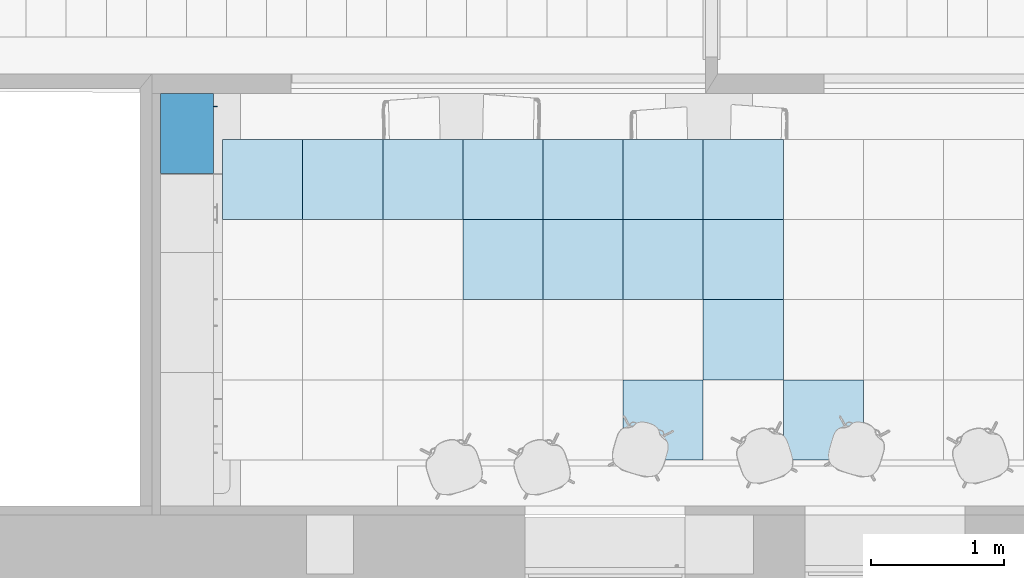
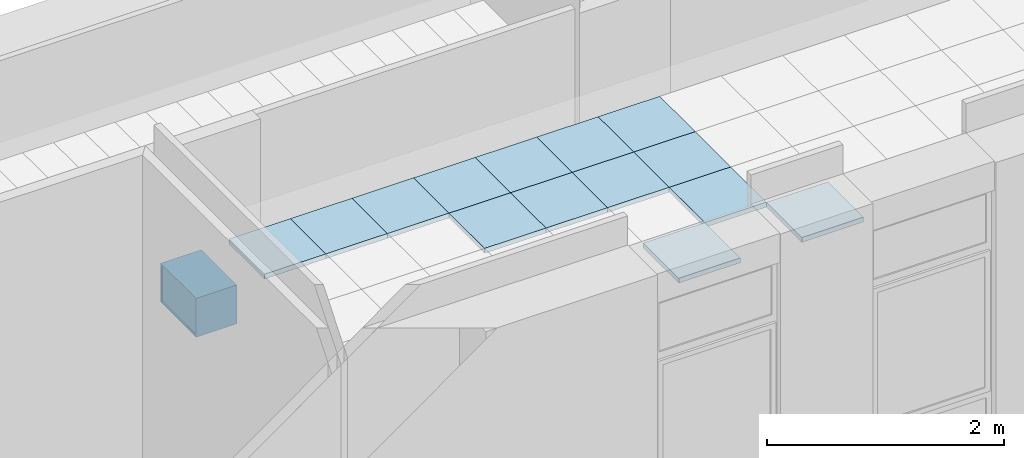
# One storey, part 17 of 60: 15 slabs.
"""IFC2X3 building model written with IfcOpenShell, lengths in millimetres."""

from ifc_helpers import new_model, entity, si_unit, converted_unit, derived_unit, money_unit, direction, frame, origin_with_axes, place, context, subcontext, project, spatial, polyline, outline, extrude, faceted_brep, source, transform, mapped, material, layer, layer_set, layer_usage, type_object, element, save


model = new_model("IFC2X3")

# Units and contexts
model_context = context("Model", 3, precision=0.01, world=origin_with_axes(), true_north=direction((0.0, 1.0)))
body_context = subcontext(model_context, "Body", "Model", "MODEL_VIEW")
ifc_project = project(units=[si_unit("LENGTHUNIT", "METRE", prefix="MILLI"), si_unit("AREAUNIT", "SQUARE_METRE"), si_unit("VOLUMEUNIT", "CUBIC_METRE"), converted_unit("PLANEANGLEUNIT", "DEGREE", entity("IfcPlaneAngleMeasure", 0.0174532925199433), si_unit("PLANEANGLEUNIT", "RADIAN"), dimensions=[0, 0, 0, 0, 0, 0, 0]), money_unit("USD"), converted_unit("TIMEUNIT", "Year", entity("IfcTimeMeasure", 31557600.0), si_unit("TIMEUNIT", "SECOND"), dimensions=[0, 0, 1, 0, 0, 0, 0]), si_unit("MASSUNIT", "GRAM", prefix="KILO"), si_unit("THERMODYNAMICTEMPERATUREUNIT", "DEGREE_CELSIUS"), si_unit("LUMINOUSINTENSITYUNIT", "LUMEN"), si_unit("ENERGYUNIT", "JOULE", prefix="MEGA"), derived_unit("THERMALCONDUCTANCEUNIT", [(si_unit("POWERUNIT", "WATT"), 1), (si_unit("LENGTHUNIT", "METRE"), -1), (si_unit("THERMODYNAMICTEMPERATUREUNIT", "KELVIN"), -1)]), derived_unit("SPECIFICHEATCAPACITYUNIT", [(si_unit("ENERGYUNIT", "JOULE"), 1), (si_unit("MASSUNIT", "GRAM", prefix="KILO"), -1), (si_unit("THERMODYNAMICTEMPERATUREUNIT", "KELVIN"), -1)]), derived_unit("MASSDENSITYUNIT", [(si_unit("MASSUNIT", "GRAM", prefix="KILO"), 1), (si_unit("VOLUMEUNIT", "CUBIC_METRE"), -1)])], contexts=[model_context])

# Site, building, storey
site_placement = place(None, origin_with_axes())
site = spatial("IfcSite", under=ifc_project, at=site_placement, Name="Sitio", CompositionType="ELEMENT")
building_placement = place(site_placement, origin_with_axes())
building = spatial("IfcBuilding", under=site, at=building_placement, Name="Construcción", CompositionType="ELEMENT")
storey_placement = place(building_placement, frame((0.0, 0.0, 3650.0), z_axis=(0.0, 0.0, 1.0), x_axis=(1.0, 0.0, 0.0)))
storey = spatial("IfcBuildingStorey", under=building, at=storey_placement, Name="PLANTA 2ª", CompositionType="ELEMENT", Elevation=3650.0)

# Slabs
slab_type_1 = type_object("IfcSlabType", Name="Armario Mural 27", PredefinedType="FLOOR")
shared_shape = source(origin_with_axes(), body_context, "Body", "Brep", [
    faceted_brep([(501.8682408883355, -397.999999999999, 1752.799038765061), (502.7101007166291, -397.999999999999, 1752.573463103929), (503.5000000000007, -397.999999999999, 1752.205127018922), (504.2139380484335, -397.999999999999, 1751.705222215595), (504.8302222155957, -397.999999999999, 1751.088938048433), (505.330127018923, -397.999999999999, 1750.375), (505.6984631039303, -397.999999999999, 1749.585100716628), (505.9240387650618, -397.999999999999, 1748.743240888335), (506.0000000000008, -397.999999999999, 1747.875), (505.9240387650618, -397.999999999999, 1747.006759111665), (505.6984631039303, -397.999999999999, 1746.164899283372), (505.330127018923, -397.999999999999, 1745.375), (504.8302222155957, -397.999999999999, 1744.661061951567), (504.2139380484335, -397.999999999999, 1744.044777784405), (503.5000000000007, -397.999999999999, 1743.544872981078), (502.7101007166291, -397.999999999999, 1743.17653689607), (501.8682408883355, -397.999999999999, 1742.950961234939), (501.0000000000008, -397.999999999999, 1742.875), (500.1317591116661, -397.999999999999, 1742.950961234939), (499.2898992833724, -397.999999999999, 1743.17653689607), (498.5000000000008, -397.999999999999, 1743.544872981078), (497.7860619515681, -397.999999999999, 1744.044777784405), (497.1697777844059, -397.999999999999, 1744.661061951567), (496.6698729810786, -397.999999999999, 1745.375), (496.3015368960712, -397.999999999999, 1746.164899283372), (496.0759612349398, -397.999999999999, 1747.006759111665), (496.0000000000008, -397.999999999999, 1747.875), (496.0759612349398, -397.999999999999, 1748.743240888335), (496.3015368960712, -397.999999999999, 1749.585100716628), (496.6698729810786, -397.999999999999, 1750.375), (497.1697777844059, -397.999999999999, 1751.088938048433), (497.7860619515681, -397.999999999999, 1751.705222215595), (498.5000000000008, -397.999999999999, 1752.205127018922), (499.2898992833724, -397.999999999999, 1752.573463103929), (500.1317591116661, -397.999999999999, 1752.799038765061), (501.0000000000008, -397.999999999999, 1752.875), (501.8682408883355, -422.999999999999, 1752.799038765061), (502.7101007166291, -422.999999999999, 1752.573463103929), (503.5000000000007, -422.999999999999, 1752.205127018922), (504.2139380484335, -422.999999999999, 1751.705222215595), (504.8302222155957, -422.999999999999, 1751.088938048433), (505.330127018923, -422.999999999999, 1750.375), (505.6984631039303, -422.999999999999, 1749.585100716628), (505.9240387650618, -422.999999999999, 1748.743240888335), (506.0000000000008, -422.999999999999, 1747.875), (505.9240387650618, -422.999999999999, 1747.006759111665), (505.6984631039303, -422.999999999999, 1746.164899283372), (505.330127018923, -422.999999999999, 1745.375), (504.8302222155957, -422.999999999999, 1744.661061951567), (504.2139380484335, -422.999999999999, 1744.044777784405), (503.5000000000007, -422.999999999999, 1743.544872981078), (502.7101007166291, -422.999999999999, 1743.17653689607), (501.8682408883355, -422.999999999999, 1742.950961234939), (501.0000000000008, -422.999999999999, 1742.875), (500.1317591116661, -422.999999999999, 1742.950961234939), (499.2898992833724, -422.999999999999, 1743.17653689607), (498.5000000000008, -422.999999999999, 1743.544872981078), (497.7860619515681, -422.999999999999, 1744.044777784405), (497.1697777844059, -422.999999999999, 1744.661061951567), (496.6698729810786, -422.999999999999, 1745.375), (496.3015368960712, -422.999999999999, 1746.164899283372), (496.0759612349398, -422.999999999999, 1747.006759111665), (496.0000000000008, -422.999999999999, 1747.875), (496.0759612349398, -422.999999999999, 1748.743240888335), (496.3015368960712, -422.999999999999, 1749.585100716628), (496.6698729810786, -422.999999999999, 1750.375), (497.1697777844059, -422.999999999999, 1751.088938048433), (497.7860619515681, -422.999999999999, 1751.705222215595), (498.5000000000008, -422.999999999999, 1752.205127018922), (499.2898992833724, -422.999999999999, 1752.573463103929), (500.1317591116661, -422.999999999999, 1752.799038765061), (501.0000000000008, -422.999999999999, 1752.875)], [[[0, 1, 2, 3, 4, 5, 6, 7, 8, 9, 10, 11, 12, 13, 14, 15, 16, 17, 18, 19, 20, 21, 22, 23, 24, 25, 26, 27, 28, 29, 30, 31, 32, 33, 34, 35]], [[1, 0, 36, 37]], [[2, 1, 37, 38]], [[3, 2, 38, 39]], [[4, 3, 39, 40]], [[5, 4, 40, 41]], [[6, 5, 41, 42]], [[7, 6, 42, 43]], [[8, 7, 43, 44]], [[9, 8, 44, 45]], [[10, 9, 45, 46]], [[11, 10, 46, 47]], [[12, 11, 47, 48]], [[13, 12, 48, 49]], [[14, 13, 49, 50]], [[15, 14, 50, 51]], [[16, 15, 51, 52]], [[17, 16, 52, 53]], [[18, 17, 53, 54]], [[19, 18, 54, 55]], [[20, 19, 55, 56]], [[21, 20, 56, 57]], [[22, 21, 57, 58]], [[23, 22, 58, 59]], [[24, 23, 59, 60]], [[25, 24, 60, 61]], [[26, 25, 61, 62]], [[27, 26, 62, 63]], [[28, 27, 63, 64]], [[29, 28, 64, 65]], [[30, 29, 65, 66]], [[31, 30, 66, 67]], [[32, 31, 67, 68]], [[33, 32, 68, 69]], [[34, 33, 69, 70]], [[35, 34, 70, 71]], [[0, 35, 71, 36]], [[36, 71, 70, 69, 68, 67, 66, 65, 64, 63, 62, 61, 60, 59, 58, 57, 56, 55, 54, 53, 52, 51, 50, 49, 48, 47, 46, 45, 44, 43, 42, 41, 40, 39, 38, 37]]]),
    faceted_brep([(501.8682408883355, -397.999999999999, 1649.200961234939), (501.0000000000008, -397.999999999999, 1649.125), (500.1317591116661, -397.999999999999, 1649.200961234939), (499.2898992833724, -397.999999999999, 1649.426536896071), (498.5000000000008, -397.999999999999, 1649.794872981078), (497.7860619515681, -397.999999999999, 1650.294777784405), (497.1697777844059, -397.999999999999, 1650.911061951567), (496.6698729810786, -397.999999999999, 1651.625), (496.3015368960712, -397.999999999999, 1652.414899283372), (496.0759612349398, -397.999999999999, 1653.256759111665), (496.0000000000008, -397.999999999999, 1654.125), (496.0759612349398, -397.999999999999, 1654.993240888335), (496.3015368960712, -397.999999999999, 1655.835100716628), (496.6698729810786, -397.999999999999, 1656.625), (497.1697777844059, -397.999999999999, 1657.338938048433), (497.7860619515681, -397.999999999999, 1657.955222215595), (498.5000000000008, -397.999999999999, 1658.455127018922), (499.2898992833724, -397.999999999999, 1658.823463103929), (500.1317591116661, -397.999999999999, 1659.049038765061), (501.0000000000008, -397.999999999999, 1659.125), (501.8682408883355, -397.999999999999, 1659.049038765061), (502.7101007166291, -397.999999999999, 1658.823463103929), (503.5000000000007, -397.999999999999, 1658.455127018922), (504.2139380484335, -397.999999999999, 1657.955222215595), (504.8302222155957, -397.999999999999, 1657.338938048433), (505.330127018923, -397.999999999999, 1656.625), (505.6984631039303, -397.999999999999, 1655.835100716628), (505.9240387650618, -397.999999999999, 1654.993240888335), (506.0000000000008, -397.999999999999, 1654.125), (505.9240387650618, -397.999999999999, 1653.256759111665), (505.6984631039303, -397.999999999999, 1652.414899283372), (505.330127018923, -397.999999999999, 1651.625), (504.8302222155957, -397.999999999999, 1650.911061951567), (504.2139380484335, -397.999999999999, 1650.294777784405), (503.5000000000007, -397.999999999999, 1649.794872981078), (502.7101007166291, -397.999999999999, 1649.426536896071), (501.8682408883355, -422.999999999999, 1649.200961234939), (501.0000000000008, -422.999999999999, 1649.125), (500.1317591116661, -422.999999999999, 1649.200961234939), (499.2898992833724, -422.999999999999, 1649.426536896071), (498.5000000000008, -422.999999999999, 1649.794872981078), (497.7860619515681, -422.999999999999, 1650.294777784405), (497.1697777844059, -422.999999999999, 1650.911061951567), (496.6698729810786, -422.999999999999, 1651.625), (496.3015368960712, -422.999999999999, 1652.414899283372), (496.0759612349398, -422.999999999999, 1653.256759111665), (496.0000000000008, -422.999999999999, 1654.125), (496.0759612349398, -422.999999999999, 1654.993240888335), (496.3015368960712, -422.999999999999, 1655.835100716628), (496.6698729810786, -422.999999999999, 1656.625), (497.1697777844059, -422.999999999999, 1657.338938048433), (497.7860619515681, -422.999999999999, 1657.955222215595), (498.5000000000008, -422.999999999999, 1658.455127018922), (499.2898992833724, -422.999999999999, 1658.823463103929), (500.1317591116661, -422.999999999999, 1659.049038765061), (501.0000000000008, -422.999999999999, 1659.125), (501.8682408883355, -422.999999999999, 1659.049038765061), (502.7101007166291, -422.999999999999, 1658.823463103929), (503.5000000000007, -422.999999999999, 1658.455127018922), (504.2139380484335, -422.999999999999, 1657.955222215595), (504.8302222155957, -422.999999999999, 1657.338938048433), (505.330127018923, -422.999999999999, 1656.625), (505.6984631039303, -422.999999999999, 1655.835100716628), (505.9240387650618, -422.999999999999, 1654.993240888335), (506.0000000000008, -422.999999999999, 1654.125), (505.9240387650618, -422.999999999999, 1653.256759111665), (505.6984631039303, -422.999999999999, 1652.414899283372), (505.330127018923, -422.999999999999, 1651.625), (504.8302222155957, -422.999999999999, 1650.911061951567), (504.2139380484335, -422.999999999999, 1650.294777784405), (503.5000000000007, -422.999999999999, 1649.794872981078), (502.7101007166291, -422.999999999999, 1649.426536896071)], [[[0, 1, 2, 3, 4, 5, 6, 7, 8, 9, 10, 11, 12, 13, 14, 15, 16, 17, 18, 19, 20, 21, 22, 23, 24, 25, 26, 27, 28, 29, 30, 31, 32, 33, 34, 35]], [[0, 36, 37, 1]], [[1, 37, 38, 2]], [[2, 38, 39, 3]], [[3, 39, 40, 4]], [[4, 40, 41, 5]], [[5, 41, 42, 6]], [[6, 42, 43, 7]], [[7, 43, 44, 8]], [[8, 44, 45, 9]], [[9, 45, 46, 10]], [[10, 46, 47, 11]], [[11, 47, 48, 12]], [[12, 48, 49, 13]], [[13, 49, 50, 14]], [[14, 50, 51, 15]], [[15, 51, 52, 16]], [[16, 52, 53, 17]], [[17, 53, 54, 18]], [[18, 54, 55, 19]], [[19, 55, 56, 20]], [[20, 56, 57, 21]], [[21, 57, 58, 22]], [[22, 58, 59, 23]], [[23, 59, 60, 24]], [[24, 60, 61, 25]], [[25, 61, 62, 26]], [[26, 62, 63, 27]], [[27, 63, 64, 28]], [[28, 64, 65, 29]], [[29, 65, 66, 30]], [[30, 66, 67, 31]], [[31, 67, 68, 32]], [[32, 68, 69, 33]], [[33, 69, 70, 34]], [[34, 70, 71, 35]], [[35, 71, 36, 0]], [[36, 71, 70, 69, 68, 67, 66, 65, 64, 63, 62, 61, 60, 59, 58, 57, 56, 55, 54, 53, 52, 51, 50, 49, 48, 47, 46, 45, 44, 43, 42, 41, 40, 39, 38, 37]]]),
    faceted_brep([(501.8682408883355, -418.0759612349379, 1626.0), (502.7101007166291, -418.3015368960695, 1626.0), (503.5000000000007, -418.6698729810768, 1626.0), (504.2139380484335, -419.1697777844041, 1626.0), (504.8302222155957, -419.7860619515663, 1626.0), (505.330127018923, -420.499999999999, 1626.0), (505.6984631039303, -421.2898992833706, 1626.0), (505.9240387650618, -422.1317591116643, 1626.0), (506.0000000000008, -422.999999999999, 1626.0), (505.9240387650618, -423.8682408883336, 1626.0), (505.6984631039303, -424.7101007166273, 1626.0), (505.330127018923, -425.499999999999, 1626.0), (504.8302222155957, -426.2139380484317, 1626.0), (504.2139380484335, -426.8302222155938, 1626.0), (503.5000000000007, -427.3301270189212, 1626.0), (502.7101007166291, -427.6984631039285, 1626.0), (501.8682408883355, -427.92403876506, 1626.0), (501.0000000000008, -427.999999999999, 1626.0), (500.1317591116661, -427.92403876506, 1626.0), (499.2898992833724, -427.6984631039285, 1626.0), (498.5000000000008, -427.3301270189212, 1626.0), (497.7860619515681, -426.8302222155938, 1626.0), (497.1697777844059, -426.2139380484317, 1626.0), (496.6698729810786, -425.499999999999, 1626.0), (496.3015368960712, -424.7101007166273, 1626.0), (496.0759612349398, -423.8682408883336, 1626.0), (496.0000000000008, -422.999999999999, 1626.0), (496.0759612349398, -422.1317591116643, 1626.0), (496.3015368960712, -421.2898992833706, 1626.0), (496.6698729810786, -420.499999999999, 1626.0), (497.1697777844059, -419.7860619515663, 1626.0), (497.7860619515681, -419.1697777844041, 1626.0), (498.5000000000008, -418.6698729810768, 1626.0), (499.2898992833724, -418.3015368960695, 1626.0), (500.1317591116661, -418.0759612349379, 1626.0), (501.0000000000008, -417.999999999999, 1626.0), (501.8682408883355, -418.0759612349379, 1776.0), (502.7101007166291, -418.3015368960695, 1776.0), (503.5000000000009, -418.6698729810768, 1776.0), (504.2139380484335, -419.1697777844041, 1776.0), (504.8302222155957, -419.7860619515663, 1776.0), (505.330127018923, -420.499999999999, 1776.0), (505.6984631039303, -421.2898992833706, 1776.0), (505.9240387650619, -422.1317591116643, 1776.0), (506.0000000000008, -422.999999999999, 1776.0), (505.9240387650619, -423.8682408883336, 1776.0), (505.6984631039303, -424.7101007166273, 1776.0), (505.330127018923, -425.499999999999, 1776.0), (504.8302222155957, -426.2139380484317, 1776.0), (504.2139380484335, -426.8302222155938, 1776.0), (503.5000000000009, -427.3301270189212, 1776.0), (502.7101007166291, -427.6984631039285, 1776.0), (501.8682408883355, -427.92403876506, 1776.0), (501.0000000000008, -427.999999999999, 1776.0), (500.1317591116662, -427.92403876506, 1776.0), (499.2898992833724, -427.6984631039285, 1776.0), (498.5000000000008, -427.3301270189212, 1776.0), (497.7860619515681, -426.8302222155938, 1776.0), (497.1697777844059, -426.2139380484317, 1776.0), (496.6698729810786, -425.499999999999, 1776.0), (496.3015368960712, -424.7101007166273, 1776.0), (496.0759612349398, -423.8682408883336, 1776.0), (496.0000000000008, -422.999999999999, 1776.0), (496.0759612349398, -422.1317591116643, 1776.0), (496.3015368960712, -421.2898992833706, 1776.0), (496.6698729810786, -420.499999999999, 1776.0), (497.1697777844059, -419.7860619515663, 1776.0), (497.7860619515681, -419.1697777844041, 1776.0), (498.5000000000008, -418.6698729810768, 1776.0), (499.2898992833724, -418.3015368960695, 1776.0), (500.1317591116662, -418.0759612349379, 1776.0), (501.0000000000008, -417.999999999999, 1776.0)], [[[0, 1, 2, 3, 4, 5, 6, 7, 8, 9, 10, 11, 12, 13, 14, 15, 16, 17, 18, 19, 20, 21, 22, 23, 24, 25, 26, 27, 28, 29, 30, 31, 32, 33, 34, 35]], [[1, 0, 36, 37]], [[2, 1, 37, 38]], [[3, 2, 38, 39]], [[4, 3, 39, 40]], [[5, 4, 40, 41]], [[6, 5, 41, 42]], [[7, 6, 42, 43]], [[8, 7, 43, 44]], [[9, 8, 44, 45]], [[10, 9, 45, 46]], [[11, 10, 46, 47]], [[12, 11, 47, 48]], [[13, 12, 48, 49]], [[14, 13, 49, 50]], [[15, 14, 50, 51]], [[16, 15, 51, 52]], [[17, 16, 52, 53]], [[18, 17, 53, 54]], [[19, 18, 54, 55]], [[20, 19, 55, 56]], [[21, 20, 56, 57]], [[22, 21, 57, 58]], [[23, 22, 58, 59]], [[24, 23, 59, 60]], [[25, 24, 60, 61]], [[26, 25, 61, 62]], [[27, 26, 62, 63]], [[28, 27, 63, 64]], [[29, 28, 64, 65]], [[30, 29, 65, 66]], [[31, 30, 66, 67]], [[32, 31, 67, 68]], [[33, 32, 68, 69]], [[34, 33, 69, 70]], [[35, 34, 70, 71]], [[0, 35, 71, 36]], [[36, 71, 70, 69, 68, 67, 66, 65, 64, 63, 62, 61, 60, 59, 58, 57, 56, 55, 54, 53, 52, 51, 50, 49, 48, 47, 46, 45, 44, 43, 42, 41, 40, 39, 38, 37]]]),
    faceted_brep([(1.0, -379.999999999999, 1501.0), (599.0000000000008, -379.999999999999, 1501.0), (599.0000000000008, -397.999999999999, 1501.0), (1.0, -397.999999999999, 1501.0), (1.0, -379.999999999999, 1899.0), (599.0000000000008, -379.999999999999, 1899.0), (599.0000000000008, -397.999999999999, 1899.0), (1.0, -397.999999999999, 1899.0)], [[[0, 1, 2, 3]], [[0, 4, 5, 1]], [[1, 5, 6, 2]], [[3, 2, 6, 7]], [[4, 0, 3, 7]], [[5, 4, 7, 6]]]),
    faceted_brep([(18.0, -379.999999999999, 1500.0), (582.0000000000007, -379.999999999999, 1500.0), (582.0000000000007, -379.999999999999, 1518.0), (18.0, -379.999999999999, 1518.0), (18.0, 0.0, 1500.0), (582.0000000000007, 0.0, 1500.0), (582.0000000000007, 0.0, 1518.0), (18.0, 0.0, 1518.0)], [[[0, 1, 2, 3]], [[0, 4, 5, 1]], [[1, 5, 6, 2]], [[3, 2, 6, 7]], [[4, 0, 3, 7]], [[5, 4, 7, 6]]]),
    faceted_brep([(18.0, -379.999999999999, 1882.0), (582.0000000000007, -379.999999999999, 1882.0), (582.0000000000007, -379.999999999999, 1900.0), (18.0, -379.999999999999, 1900.0), (18.0, 0.0, 1882.0), (582.0000000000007, 0.0, 1882.0), (582.0000000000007, 0.0, 1900.0), (18.0, 0.0, 1900.0)], [[[0, 1, 2, 3]], [[0, 4, 5, 1]], [[1, 5, 6, 2]], [[3, 2, 6, 7]], [[4, 0, 3, 7]], [[5, 4, 7, 6]]]),
    faceted_brep([(0.0, 0.0, 1500.0), (0.0, -379.999999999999, 1500.0), (0.0, -379.999999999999, 1900.0), (0.0, 0.0, 1900.0), (18.0, 0.0, 1500.0), (18.0, -379.999999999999, 1500.0), (18.0, -379.999999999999, 1900.0), (18.0, 0.0, 1900.0)], [[[0, 1, 2, 3]], [[0, 4, 5, 1]], [[1, 5, 6, 2]], [[3, 2, 6, 7]], [[4, 0, 3, 7]], [[5, 4, 7, 6]]]),
    faceted_brep([(600.0000000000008, -379.999999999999, 1500.0), (600.0000000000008, 0.0, 1500.0), (600.0000000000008, 0.0, 1900.0), (600.0000000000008, -379.999999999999, 1900.0), (582.0000000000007, -379.999999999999, 1500.0), (582.0000000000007, 0.0, 1500.0), (582.0000000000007, 0.0, 1900.0), (582.0000000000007, -379.999999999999, 1900.0)], [[[0, 1, 2, 3]], [[0, 4, 5, 1]], [[1, 5, 6, 2]], [[3, 2, 6, 7]], [[4, 0, 3, 7]], [[5, 4, 7, 6]]]),
    faceted_brep([(582.0000000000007, -9.0, 1518.0), (18.00000000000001, -9.0, 1518.0), (18.00000000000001, -9.0, 1882.0), (582.0000000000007, -9.0, 1882.0), (582.0000000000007, -18.0, 1518.0), (18.00000000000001, -18.0, 1518.0), (18.00000000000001, -18.0, 1882.0), (582.0000000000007, -18.0, 1882.0)], [[[0, 1, 2, 3]], [[0, 4, 5, 1]], [[1, 5, 6, 2]], [[3, 2, 6, 7]], [[4, 0, 3, 7]], [[5, 4, 7, 6]]]),
])
slab_1_placement = place(storey_placement, frame((-22963.41789761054, 1363.554870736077, 303.6672087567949), z_axis=(0.0, 0.0, 1.0), x_axis=(0.0, 1.0, 0.0)))
element("IfcSlab", 1, at=slab_1_placement, inside=storey, type_object=slab_type_1, Name="60.20.50 Armari", PredefinedType="FLOOR", context=body_context, shape_type="MappedRepresentation", body=[
    mapped(shared_shape, transform((0.0, 0.0, 0.0))),
])
ifc_material = material(Name="ARQ_CE217_Armstrong 60x60")
ifc_layer = layer(ifc_material, 50.0, ventilated="UNKNOWN")
ifc_layer_set = layer_set([ifc_layer], Name="ARQ_CE217_Armstrong 60x60 50")
ifc_layer_usage_1 = layer_usage(ifc_layer_set, "AXIS3", "NEGATIVE", 50.0)
slab_type_2 = type_object("IfcSlabType", Name="ARQ_CE217_Armstrong 60x60 50", PredefinedType="NOTDEFINED")
slab_2_placement = place(storey_placement, frame((-18298.41789761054, -782.710476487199, 2500.0), z_axis=(0.0, 0.0, 1.0), x_axis=(1.0, 0.0, 0.0)))
element("IfcSlab", 2, at=slab_2_placement, inside=storey, type_object=slab_type_2, material=ifc_layer_usage_1, Name="SLA - 026", PredefinedType="NOTDEFINED", context=body_context, shape_type="SweptSolid", body=[
    extrude(outline(polyline([(0.0, 0.0), (600.0000000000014, 0.0), (600.0000000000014, 600.0000000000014), (0.0, 600.0000000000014), (0.0, 0.0)])), frame((0.0, 0.0, -50.0), z_axis=(0.0, 0.0, 1.0), x_axis=(1.0, 0.0, 0.0)), (0.0, 0.0, 1.0), 50.0),
])
ifc_layer_usage_2 = layer_usage(ifc_layer_set, "AXIS3", "NEGATIVE", 50.0)
slab_3_placement = place(storey_placement, frame((-18898.41789761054, -182.7104764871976, 2500.0), z_axis=(0.0, 0.0, 1.0), x_axis=(1.0, 0.0, 0.0)))
element("IfcSlab", 3, at=slab_3_placement, inside=storey, type_object=slab_type_2, material=ifc_layer_usage_2, Name="SLA - 026", PredefinedType="NOTDEFINED", context=body_context, shape_type="SweptSolid", body=[
    extrude(outline(polyline([(0.0, 0.0), (600.0000000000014, 0.0), (600.0000000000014, 600.0000000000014), (0.0, 600.0000000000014), (0.0, 0.0)])), frame((0.0, 0.0, -50.0), z_axis=(0.0, 0.0, 1.0), x_axis=(1.0, 0.0, 0.0)), (0.0, 0.0, 1.0), 50.0),
])
ifc_layer_usage_3 = layer_usage(ifc_layer_set, "AXIS3", "NEGATIVE", 50.0)
slab_4_placement = place(storey_placement, frame((-19498.41789761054, 417.2895235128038, 2500.0), z_axis=(0.0, 0.0, 1.0), x_axis=(1.0, 0.0, 0.0)))
element("IfcSlab", 4, at=slab_4_placement, inside=storey, type_object=slab_type_2, material=ifc_layer_usage_3, Name="SLA - 026", PredefinedType="NOTDEFINED", context=body_context, shape_type="SweptSolid", body=[
    extrude(outline(polyline([(0.0, 0.0), (599.9999999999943, 0.0), (599.9999999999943, 600.0000000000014), (0.0, 600.0000000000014), (0.0, 0.0)])), frame((0.0, 0.0, -50.0), z_axis=(0.0, 0.0, 1.0), x_axis=(1.0, 0.0, 0.0)), (0.0, 0.0, 1.0), 50.0),
])
ifc_layer_usage_4 = layer_usage(ifc_layer_set, "AXIS3", "NEGATIVE", 50.0)
slab_5_placement = place(storey_placement, frame((-18898.41789761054, 417.2895235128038, 2500.0), z_axis=(0.0, 0.0, 1.0), x_axis=(1.0, 0.0, 0.0)))
element("IfcSlab", 5, at=slab_5_placement, inside=storey, type_object=slab_type_2, material=ifc_layer_usage_4, Name="SLA - 026", PredefinedType="NOTDEFINED", context=body_context, shape_type="SweptSolid", body=[
    extrude(outline(polyline([(0.0, 0.0), (600.0000000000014, 0.0), (600.0000000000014, 600.0000000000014), (0.0, 600.0000000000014), (0.0, 0.0)])), frame((0.0, 0.0, -50.0), z_axis=(0.0, 0.0, 1.0), x_axis=(1.0, 0.0, 0.0)), (0.0, 0.0, 1.0), 50.0),
])
ifc_layer_usage_5 = layer_usage(ifc_layer_set, "AXIS3", "NEGATIVE", 50.0)
slab_6_placement = place(storey_placement, frame((-19498.41789761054, -782.710476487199, 2500.0), z_axis=(0.0, 0.0, 1.0), x_axis=(1.0, 0.0, 0.0)))
element("IfcSlab", 6, at=slab_6_placement, inside=storey, type_object=slab_type_2, material=ifc_layer_usage_5, Name="SLA - 026", PredefinedType="NOTDEFINED", context=body_context, shape_type="SweptSolid", body=[
    extrude(outline(polyline([(0.0, 0.0), (599.9999999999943, 0.0), (599.9999999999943, 600.0000000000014), (0.0, 600.0000000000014), (0.0, 0.0)])), frame((0.0, 0.0, -50.0), z_axis=(0.0, 0.0, 1.0), x_axis=(1.0, 0.0, 0.0)), (0.0, 0.0, 1.0), 50.0),
])
ifc_layer_usage_6 = layer_usage(ifc_layer_set, "AXIS3", "NEGATIVE", 50.0)
slab_7_placement = place(storey_placement, frame((-20698.41789761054, 417.2895235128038, 2500.0), z_axis=(0.0, 0.0, 1.0), x_axis=(1.0, 0.0, 0.0)))
element("IfcSlab", 7, at=slab_7_placement, inside=storey, type_object=slab_type_2, material=ifc_layer_usage_6, Name="SLA - 026", PredefinedType="NOTDEFINED", context=body_context, shape_type="SweptSolid", body=[
    extrude(outline(polyline([(0.0, 0.0), (600.0000000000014, 0.0), (600.0000000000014, 600.0000000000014), (0.0, 600.0000000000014), (0.0, 0.0)])), frame((0.0, 0.0, -50.0), z_axis=(0.0, 0.0, 1.0), x_axis=(1.0, 0.0, 0.0)), (0.0, 0.0, 1.0), 50.0),
])
ifc_layer_usage_7 = layer_usage(ifc_layer_set, "AXIS3", "NEGATIVE", 50.0)
slab_8_placement = place(storey_placement, frame((-20098.41789761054, 417.2895235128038, 2500.0), z_axis=(0.0, 0.0, 1.0), x_axis=(1.0, 0.0, 0.0)))
element("IfcSlab", 8, at=slab_8_placement, inside=storey, type_object=slab_type_2, material=ifc_layer_usage_7, Name="SLA - 026", PredefinedType="NOTDEFINED", context=body_context, shape_type="SweptSolid", body=[
    extrude(outline(polyline([(0.0, 0.0), (600.000000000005, 0.0), (600.000000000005, 600.0000000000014), (0.0, 600.0000000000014), (0.0, 0.0)])), frame((0.0, 0.0, -50.0), z_axis=(0.0, 0.0, 1.0), x_axis=(1.0, 0.0, 0.0)), (0.0, 0.0, 1.0), 50.0),
])
ifc_layer_usage_8 = layer_usage(ifc_layer_set, "AXIS3", "NEGATIVE", 50.0)
slab_9_placement = place(storey_placement, frame((-22498.41789761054, 1017.289523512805, 2500.0), z_axis=(0.0, 0.0, 1.0), x_axis=(1.0, 0.0, 0.0)))
element("IfcSlab", 9, at=slab_9_placement, inside=storey, type_object=slab_type_2, material=ifc_layer_usage_8, Name="SLA - 026", PredefinedType="NOTDEFINED", context=body_context, shape_type="SweptSolid", body=[
    extrude(outline(polyline([(0.0, 0.0), (600.0000000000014, 0.0), (600.0000000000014, 600.0000000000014), (0.0, 600.0000000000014), (0.0, 0.0)])), frame((0.0, 0.0, -50.0), z_axis=(0.0, 0.0, 1.0), x_axis=(1.0, 0.0, 0.0)), (0.0, 0.0, 1.0), 50.0),
])
ifc_layer_usage_9 = layer_usage(ifc_layer_set, "AXIS3", "NEGATIVE", 50.0)
slab_10_placement = place(storey_placement, frame((-21298.41789761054, 1017.289523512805, 2500.0), z_axis=(0.0, 0.0, 1.0), x_axis=(1.0, 0.0, 0.0)))
element("IfcSlab", 10, at=slab_10_placement, inside=storey, type_object=slab_type_2, material=ifc_layer_usage_9, Name="SLA - 026", PredefinedType="NOTDEFINED", context=body_context, shape_type="SweptSolid", body=[
    extrude(outline(polyline([(0.0, 0.0), (600.0000000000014, 0.0), (600.0000000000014, 600.0000000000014), (0.0, 600.0000000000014), (0.0, 0.0)])), frame((0.0, 0.0, -50.0), z_axis=(0.0, 0.0, 1.0), x_axis=(1.0, 0.0, 0.0)), (0.0, 0.0, 1.0), 50.0),
])
ifc_layer_usage_10 = layer_usage(ifc_layer_set, "AXIS3", "NEGATIVE", 50.0)
slab_11_placement = place(storey_placement, frame((-21898.41789761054, 1017.289523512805, 2500.0), z_axis=(0.0, 0.0, 1.0), x_axis=(1.0, 0.0, 0.0)))
element("IfcSlab", 11, at=slab_11_placement, inside=storey, type_object=slab_type_2, material=ifc_layer_usage_10, Name="SLA - 026", PredefinedType="NOTDEFINED", context=body_context, shape_type="SweptSolid", body=[
    extrude(outline(polyline([(0.0, 0.0), (600.0000000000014, 0.0), (600.0000000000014, 600.0000000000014), (0.0, 600.0000000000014), (0.0, 0.0)])), frame((0.0, 0.0, -50.0), z_axis=(0.0, 0.0, 1.0), x_axis=(1.0, 0.0, 0.0)), (0.0, 0.0, 1.0), 50.0),
])
ifc_layer_usage_11 = layer_usage(ifc_layer_set, "AXIS3", "NEGATIVE", 50.0)
slab_12_placement = place(storey_placement, frame((-20098.41789761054, 1017.289523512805, 2500.0), z_axis=(0.0, 0.0, 1.0), x_axis=(1.0, 0.0, 0.0)))
element("IfcSlab", 12, at=slab_12_placement, inside=storey, type_object=slab_type_2, material=ifc_layer_usage_11, Name="SLA - 026", PredefinedType="NOTDEFINED", context=body_context, shape_type="SweptSolid", body=[
    extrude(outline(polyline([(0.0, 0.0), (600.0000000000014, 0.0), (600.0000000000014, 600.0000000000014), (0.0, 600.0000000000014), (0.0, 0.0)])), frame((0.0, 0.0, -50.0), z_axis=(0.0, 0.0, 1.0), x_axis=(1.0, 0.0, 0.0)), (0.0, 0.0, 1.0), 50.0),
])
ifc_layer_usage_12 = layer_usage(ifc_layer_set, "AXIS3", "NEGATIVE", 50.0)
slab_13_placement = place(storey_placement, frame((-19498.41789761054, 1017.289523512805, 2500.0), z_axis=(0.0, 0.0, 1.0), x_axis=(1.0, 0.0, 0.0)))
element("IfcSlab", 13, at=slab_13_placement, inside=storey, type_object=slab_type_2, material=ifc_layer_usage_12, Name="SLA - 026", PredefinedType="NOTDEFINED", context=body_context, shape_type="SweptSolid", body=[
    extrude(outline(polyline([(0.0, 0.0), (600.0000000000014, 0.0), (600.0000000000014, 600.0000000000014), (0.0, 600.0000000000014), (0.0, 0.0)])), frame((0.0, 0.0, -50.0), z_axis=(0.0, 0.0, 1.0), x_axis=(1.0, 0.0, 0.0)), (0.0, 0.0, 1.0), 50.0),
])
ifc_layer_usage_13 = layer_usage(ifc_layer_set, "AXIS3", "NEGATIVE", 50.0)
slab_14_placement = place(storey_placement, frame((-18898.41789761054, 1017.289523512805, 2500.0), z_axis=(0.0, 0.0, 1.0), x_axis=(1.0, 0.0, 0.0)))
element("IfcSlab", 14, at=slab_14_placement, inside=storey, type_object=slab_type_2, material=ifc_layer_usage_13, Name="SLA - 026", PredefinedType="NOTDEFINED", context=body_context, shape_type="SweptSolid", body=[
    extrude(outline(polyline([(0.0, 0.0), (600.0000000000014, 0.0), (600.0000000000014, 600.0000000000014), (0.0, 600.0000000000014), (0.0, 0.0)])), frame((0.0, 0.0, -50.0), z_axis=(0.0, 0.0, 1.0), x_axis=(1.0, 0.0, 0.0)), (0.0, 0.0, 1.0), 50.0),
])
ifc_layer_usage_14 = layer_usage(ifc_layer_set, "AXIS3", "NEGATIVE", 50.0)
slab_15_placement = place(storey_placement, frame((-20698.41789761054, 1017.289523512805, 2500.0), z_axis=(0.0, 0.0, 1.0), x_axis=(1.0, 0.0, 0.0)))
element("IfcSlab", 15, at=slab_15_placement, inside=storey, type_object=slab_type_2, material=ifc_layer_usage_14, Name="SLA - 026", PredefinedType="NOTDEFINED", context=body_context, shape_type="SweptSolid", body=[
    extrude(outline(polyline([(0.0, 0.0), (600.0000000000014, 0.0), (600.0000000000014, 600.0000000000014), (0.0, 600.0000000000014), (0.0, 0.0)])), frame((0.0, 0.0, -50.0), z_axis=(0.0, 0.0, 1.0), x_axis=(1.0, 0.0, 0.0)), (0.0, 0.0, 1.0), 50.0),
])

save(model, "model.ifc")
